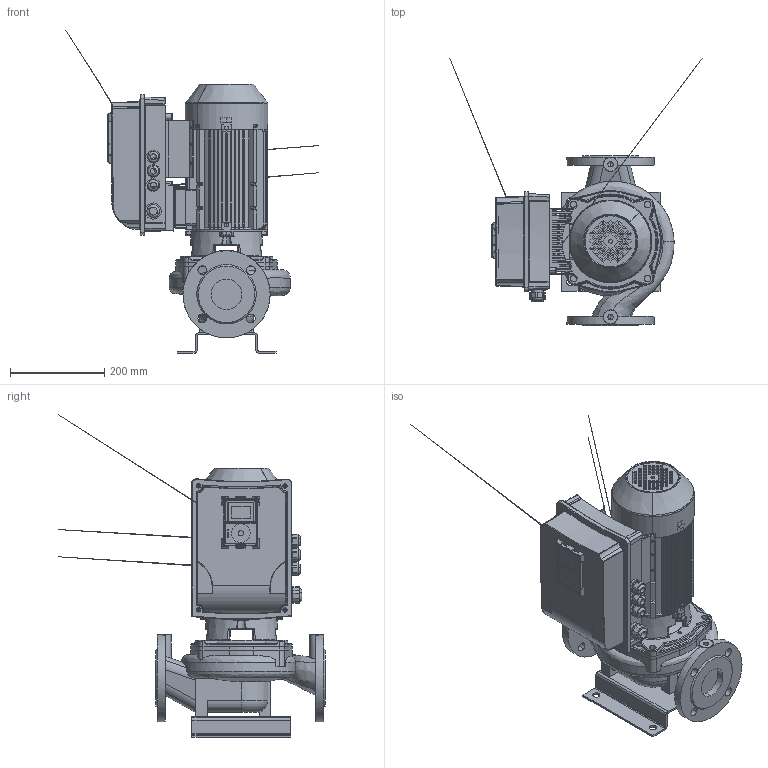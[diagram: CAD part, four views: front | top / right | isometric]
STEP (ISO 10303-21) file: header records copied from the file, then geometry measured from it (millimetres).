
FILE_DESCRIPTION(('STEP AP214'),'1');
FILE_NAME('export.stp','2018-06-01T13:28:22',(' '),(' '),'Spatial InterOp 3D',' ',' ');
FILE_SCHEMA(('AUTOMOTIVE_DESIGN { 1 0 10303 214 1 1 1 1 }'));
Length unit declared in the file: millimetre
Products named in the file (27): W_ALP10664; V_JALKA35973; V_PPAL10651066; V_TLL65AB80A1102; W_ALP10664150KPVS; 160024; 160004_Valu; V_MKP90-2-F19_VS; 480039; 480038___; 480037; 480036___; 160135; SOVITUSPALA; Vacon_MS2; G43699; Vacon20CP_MS2; MS2_bottom_final; P101407; MS2_cover_final; Vacon_Display; CAD-3D-VACON-M100-Display.sldasm; Vacon_display_pla; Vacon_display_scr; DIN_966-M5x10; M20_tiivisteholkk; M25_tiivisteholkk
Assembly tree (31 placements, depth 6):
  W_ALP10664150KPVS
    W_ALP10664
      V_JALKA35973
      V_PPAL10651066
      V_TLL65AB80A1102
    V_MKP90-2-F19_VS
      160024
        160004_Valu
      480039
        480038___
      480037
        480036___
      160135
      SOVITUSPALA
      Vacon_MS2
        G43699
        Vacon20CP_MS2
          MS2_bottom_final
          P101407
          MS2_cover_final
          Vacon_Display
            CAD-3D-VACON-M100-Display.sldasm
            Vacon_display_pla
            Vacon_display_scr
          DIN_966-M5x10  x4
          M20_tiivisteholkk  x3
          M25_tiivisteholkk
Bounding box: 535.23 x 565.86 x 684.18 mm (x, y, z)
Volume: 8272020.4 mm3; surface area: 2129875 mm2
Topology: 22 solids, 1495 shells, 5115 faces, 17384 edges, 13728 vertices
Faces by surface type: bspline 1815, plane 1376, cylinder 1136, torus 444, cone 268, sphere 76
Entity records: 238898 total; most frequent: CARTESIAN_POINT 99635, ORIENTED_EDGE 25800, DIRECTION 17304, EDGE_CURVE 16722, VERTEX_POINT 13410, B_SPLINE_CURVE_WITH_KNOTS 7822, AXIS2_PLACEMENT_3D 6637, EDGE_LOOP 5382
